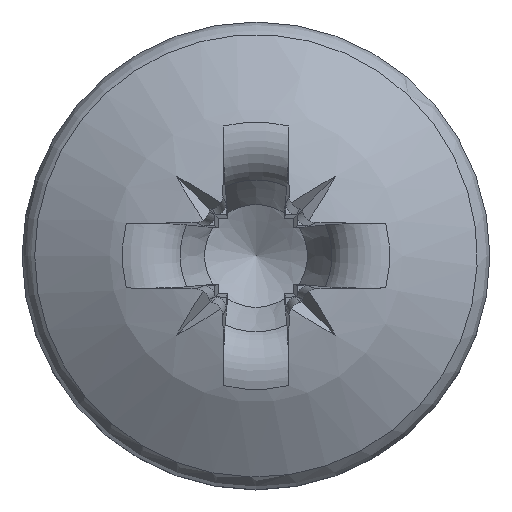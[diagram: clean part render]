
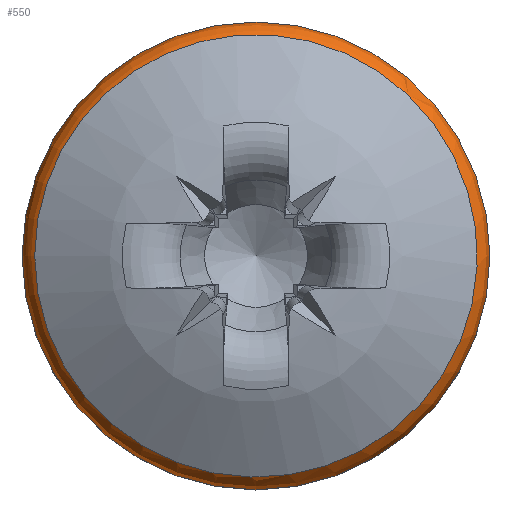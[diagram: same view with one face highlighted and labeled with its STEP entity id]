
A CAD part, top view. The second image highlights one B-rep face of the part: STEP entity #550.
In plain terms, the highlighted toroidal (fillet/blend) face has major radius 2.643 mm and minor radius 0.407 mm.
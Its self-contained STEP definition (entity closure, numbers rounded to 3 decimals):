
#456=TOROIDAL_SURFACE('',#2530,2.643,0.407);
#472=FACE_BOUND('',#864,.T.);
#473=FACE_BOUND('',#865,.T.);
#550=ADVANCED_FACE('',(#472,#473),#456,.T.);
#864=EDGE_LOOP('',(#1353));
#865=EDGE_LOOP('',(#1354));
#956=CIRCLE('',#2415,2.885);
#981=CIRCLE('',#2445,3.05);
#1353=ORIENTED_EDGE('',*,*,#1989,.F.);
#1354=ORIENTED_EDGE('',*,*,#1948,.F.);
#1739=VERTEX_POINT('',#4804);
#1778=VERTEX_POINT('',#5036);
#1948=EDGE_CURVE('',#1739,#1739,#956,.T.);
#1989=EDGE_CURVE('',#1778,#1778,#981,.T.);
#2415=AXIS2_PLACEMENT_3D('',#4803,#2548,#2549);
#2445=AXIS2_PLACEMENT_3D('',#5035,#2609,#2610);
#2530=AXIS2_PLACEMENT_3D('',#5467,#2839,#2840);
#2548=DIRECTION('',(0.,0.,1.));
#2549=DIRECTION('',(-1.,0.,0.));
#2609=DIRECTION('',(0.,0.,-1.));
#2610=DIRECTION('',(-1.,0.,0.));
#2839=DIRECTION('',(0.,0.,-1.));
#2840=DIRECTION('',(-1.,0.,0.));
#4803=CARTESIAN_POINT('',(0.,0.,1.747));
#4804=CARTESIAN_POINT('',(-2.885,0.,1.747));
#5035=CARTESIAN_POINT('',(0.,0.,1.421));
#5036=CARTESIAN_POINT('',(-3.05,0.,1.421));
#5467=CARTESIAN_POINT('',(0.,0.,1.421));
